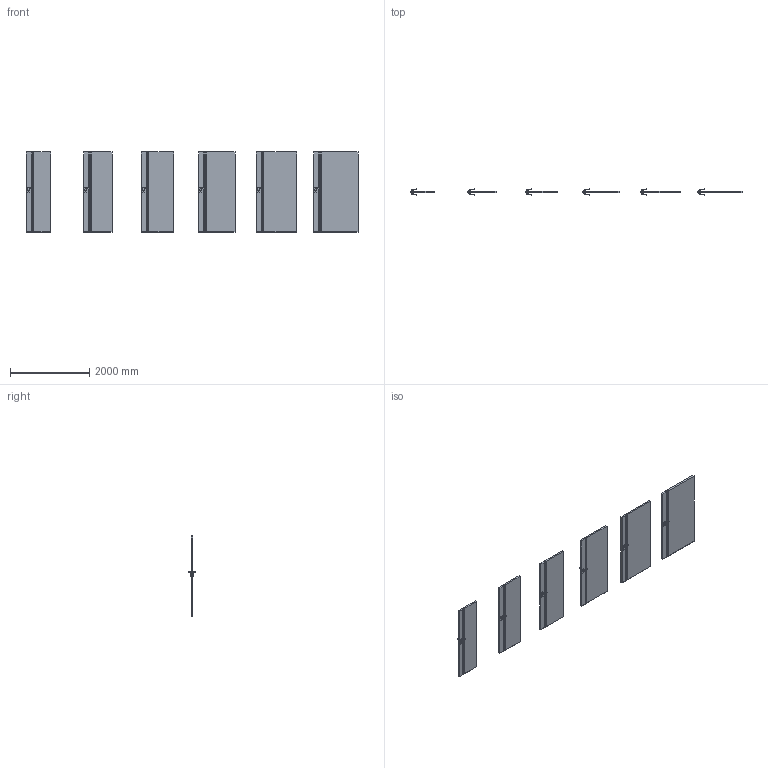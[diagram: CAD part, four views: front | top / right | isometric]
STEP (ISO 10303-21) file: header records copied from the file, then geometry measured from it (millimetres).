
FILE_DESCRIPTION(/* description */ (''),/* implementation_level */ '2;1');
FILE_NAME(/* name */ '049683_B_2-Skrzydło VECTOR B_ polska norma _PN__ bezprzylgowe..stp',/* time_stamp */ '2024-02-22T13:55:07+01:00',/* author */ (''),/* organization */ (''),/* preprocessor_version */ 'ST-DEVELOPER v16',/* originating_system */ 'SIEMENS PLM Software NX 11.0',/* authorisation */ '');
FILE_SCHEMA (('AUTOMOTIVE_DESIGN { 1 0 10303 214 3 1 1 1 }'));
Length unit declared in the file: millimetre
Products named in the file (1): bkni40080F8A8x1i
Bounding box: 8368 x 153.27 x 2017 mm (x, y, z)
Volume: 413145611 mm3; surface area: 22718971.6 mm2
Topology: 30 solids, 30 shells, 1344 faces, 3324 edges, 1920 vertices
Faces by surface type: plane 576, cylinder 408, bspline 192, sphere 168
Entity records: 45100 total; most frequent: CARTESIAN_POINT 14845, ORIENTED_EDGE 6312, DIRECTION 6110, EDGE_CURVE 3156, AXIS2_PLACEMENT_3D 2161, VERTEX_POINT 1920, LINE 1788, VECTOR 1788
